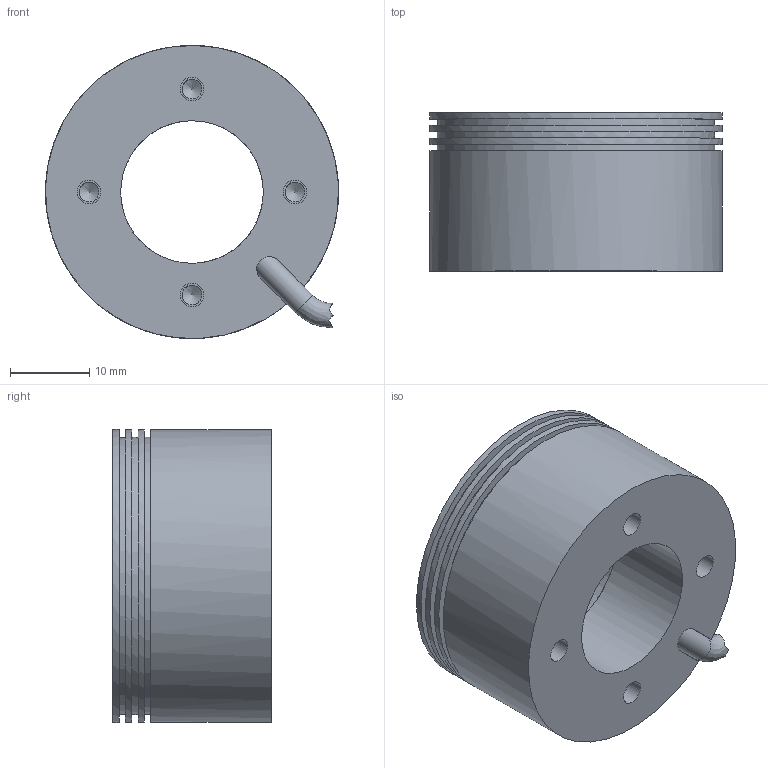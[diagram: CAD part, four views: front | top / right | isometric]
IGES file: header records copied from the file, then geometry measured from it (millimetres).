
Global section: file name: 153-00726_LR 32 W-24-KFL5.pdf; native system: Autodesk Inventor 2018; preprocessor: unknown; author: ss; date: 20180725.083941; units: millimetre
Bounding box: 37 x 20 x 37 mm (x, y, z)
Volume: 16014 mm3; surface area: 8595.8 mm2
Topology: 3 solids, 3 shells, 54 faces, 138 edges, 103 vertices
Faces by surface type: bspline 54
